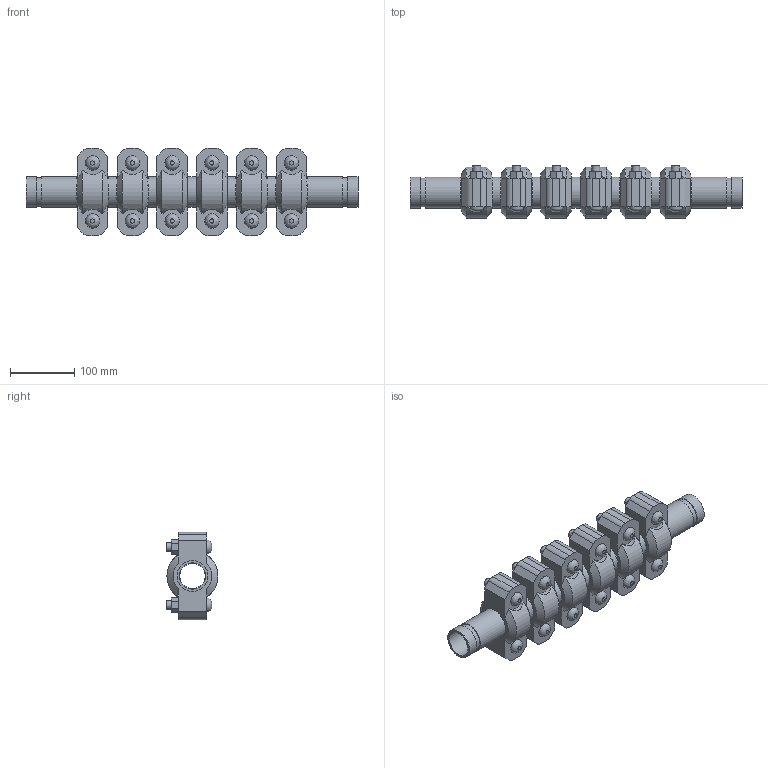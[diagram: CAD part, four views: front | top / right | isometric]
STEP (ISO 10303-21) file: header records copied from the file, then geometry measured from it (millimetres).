
FILE_DESCRIPTION(/* description */ ('VIC EXPANSION JOINT 6 COUPLINGS EXPANDED STYLE 155 (OGS)','CAx-IF Rec.Pracs.---Representation and Presentation of Product Manufacturing Information (PMI)---4.0---2014-10-13'),/* implementation_level */ '2;1');
FILE_NAME(/* name */ 'C:\Users\kkamble\AppData\Roaming\Autodesk\ApplicationPlugins\Victaulic.Temp\A6\Victaulic_IPS_Expansion Joint_Expanded_6 Couplings_Style 155 (OGS)_1.5 (40).stp',/* time_stamp */ '2021-06-27T00:04:20+02:00',/* author */ ('kkamble'),/* organization */ ('Victaulic'),/* preprocessor_version */ 'ST-DEVELOPER v17.2',/* originating_system */ 'Autodesk Inventor 2019',/* authorisation */ '');
FILE_SCHEMA (('AP242_MANAGED_MODEL_BASED_3D_ENGINEERING_MIM_LF { 1 0 10303 442 1 1 4 }'));
Length unit declared in the file: inch
Products named in the file (4): 155-01.5; Nipple-01.5; Nipple-01.5_1; 077-01.5
Assembly tree (13 placements, depth 2):
  155-01.5
    Nipple-01.5  x2
    Nipple-01.5_1  x5
    077-01.5  x6
Bounding box: 517.4 x 81.03 x 136.65 mm (x, y, z)
Volume: 1821069.8 mm3; surface area: 430306.2 mm2
Topology: 13 solids, 25 shells, 450 faces, 1080 edges, 756 vertices
Faces by surface type: plane 258, cylinder 156, cone 24, bspline 12
Full cylindrical faces by diameter (mm): 12.7 x24, 14.605 x12, 39.37 x6, 40.894 x7, 45.085 x14, 48.26 x33
Entity records: 3033 total; most frequent: CARTESIAN_POINT 605, DIRECTION 489, ORIENTED_EDGE 410, EDGE_CURVE 205, AXIS2_PLACEMENT_3D 196, VERTEX_POINT 146, EDGE_LOOP 111, LINE 97
